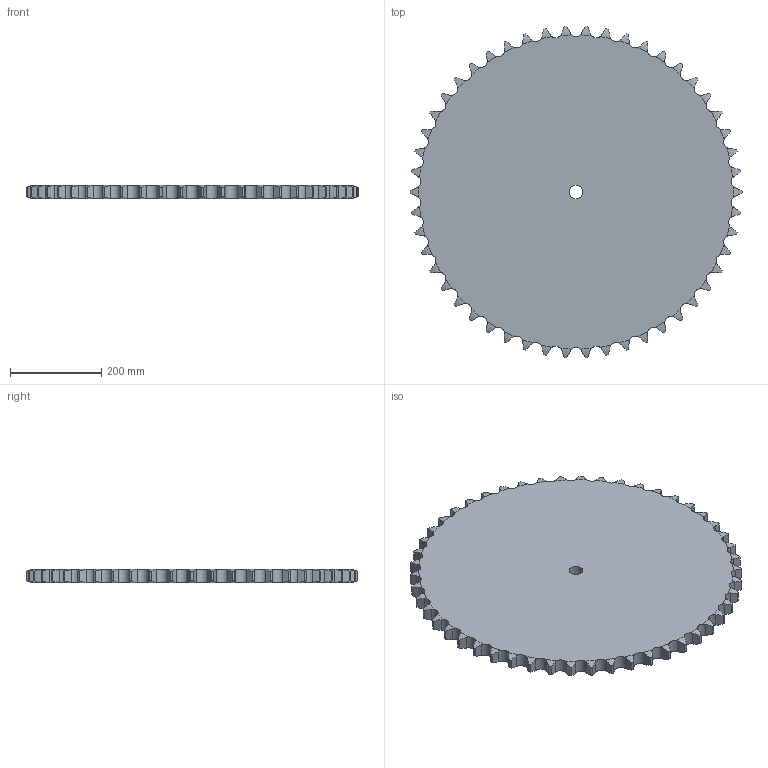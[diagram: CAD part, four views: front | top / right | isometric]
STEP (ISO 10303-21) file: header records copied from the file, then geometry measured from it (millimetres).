
FILE_DESCRIPTION((''),'2;1');
FILE_NAME('500-751-0050_PRT','2021-02-12T',('Brieden'),('Brieden'),'PRO/ENGINEER BY PARAMETRIC TECHNOLOGY CORPORATION, 2010160','PRO/ENGINEER BY PARAMETRIC TECHNOLOGY CORPORATION, 2010160','');
FILE_SCHEMA(('AUTOMOTIVE_DESIGN { 1 0 10303 214 1 1 1 1 }'));
Length unit declared in the file: millimetre
Products named in the file (1): 500-751-0050_PRT
Bounding box: 725.84 x 724.7 x 29.4 mm (x, y, z)
Volume: 11182333.3 mm3; surface area: 859507 mm2
Topology: 1 solids, 1 shells, 304 faces, 906 edges, 604 vertices
Faces by surface type: cylinder 202, torus 100, plane 2
Entity records: 15714 total; most frequent: CARTESIAN_POINT 5245, ORIENTED_EDGE 1812, DIRECTION 1418, PRESENTATION_STYLE_ASSIGNMENT 907, STYLED_ITEM 907, CURVE_STYLE 906, EDGE_CURVE 906, AXIS2_PLACEMENT_3D 608
